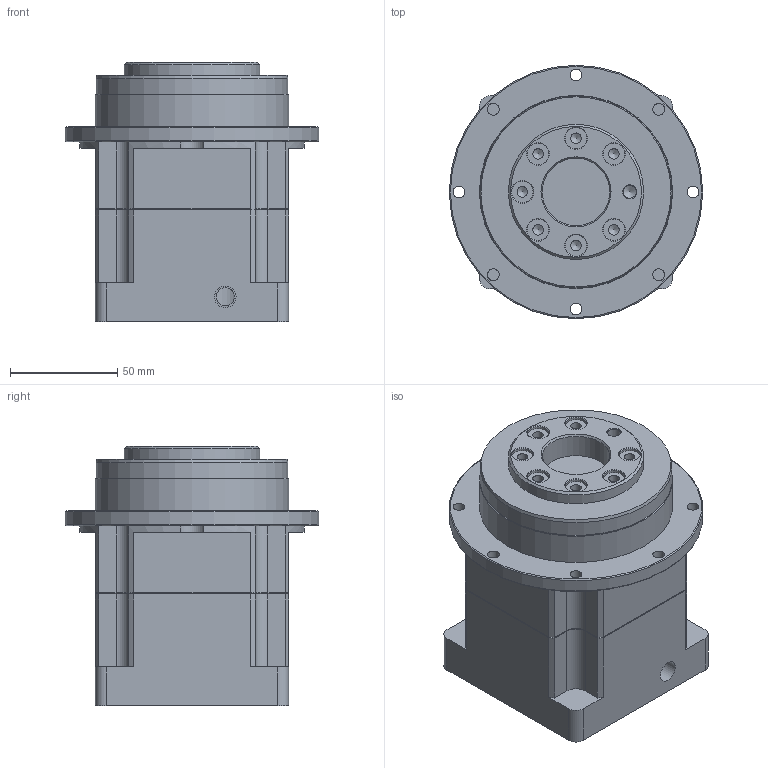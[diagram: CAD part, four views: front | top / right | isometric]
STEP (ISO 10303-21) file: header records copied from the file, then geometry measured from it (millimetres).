
FILE_DESCRIPTION((''),'2;1');
FILE_NAME('D:\유성\유성\도면\3D\2. 홈페이지용 3D 도면 (ipt)\외부도\SPIFH090\SPIFH090 SERIES (1 STAGE-A TYPE)_Shrinkwrap_1.stp','2014-05-08T14:55:24',('nagyu'),(''),'Autodesk Inventor 2013','Autodesk Inventor 2013','');
FILE_SCHEMA(('AUTOMOTIVE_DESIGN { 1 0 10303 214 1 1 1 1 }'));
Length unit declared in the file: millimetre
Products named in the file (1): SPIFH090 SERIES (1 STAGE-A TYPE)_Shrinkwrap_1
Bounding box: 118 x 118 x 120.7 mm (x, y, z)
Volume: 792078.3 mm3; surface area: 76175.5 mm2
Topology: 1 solids, 1 shells, 190 faces, 488 edges, 312 vertices
Faces by surface type: plane 72, cylinder 70, cone 46, torus 2
Full cylindrical faces by diameter (mm): 4.917 x11, 5.5 x8, 6 x1, 8.5 x1, 10 x8, 19 x1, 30 x1, 31.5 x1, 63 x1, 64 x1, 70 x1, 89.4 x1, 90 x1, 118 x1
Entity records: 5246 total; most frequent: CARTESIAN_POINT 950, DIRECTION 938, ORIENTED_EDGE 772, AXIS2_PLACEMENT_3D 386, EDGE_CURVE 386, EDGE_LOOP 292, VERTEX_POINT 280, CIRCLE 191
